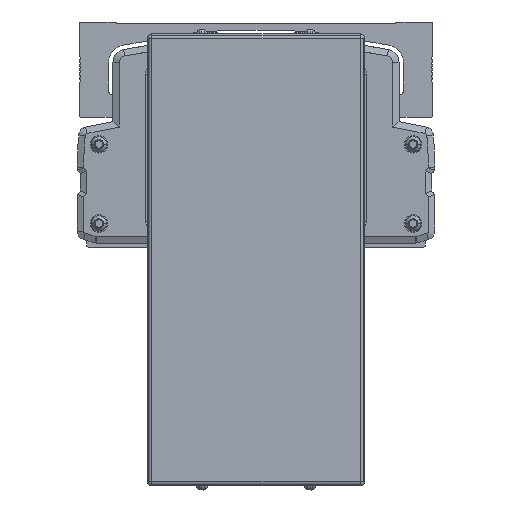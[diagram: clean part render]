
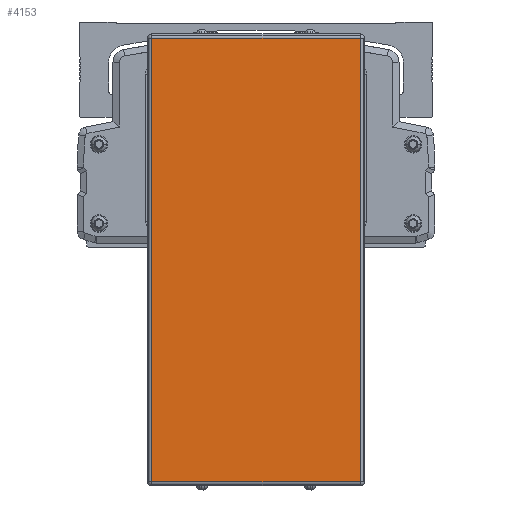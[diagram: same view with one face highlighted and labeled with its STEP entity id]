
A CAD part, front view. The second image highlights one B-rep face of the part: STEP entity #4153.
In plain terms, the highlighted planar face has unit normal (0, -1, 0).
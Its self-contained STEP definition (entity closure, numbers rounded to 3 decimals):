
#4153=ADVANCED_FACE('',(#9646),#9647,.T.);
#9646=FACE_OUTER_BOUND('',#17497,.T.);
#9647=PLANE('',#17498);
#17497=EDGE_LOOP('',(#31227,#31228,#31229,#31230));
#17498=AXIS2_PLACEMENT_3D('',#31231,#31232,#31233);
#31227=ORIENTED_EDGE('',*,*,#46391,.F.);
#31228=ORIENTED_EDGE('',*,*,#48326,.F.);
#31229=ORIENTED_EDGE('',*,*,#48327,.F.);
#31230=ORIENTED_EDGE('',*,*,#48328,.F.);
#31231=CARTESIAN_POINT('',(-600.,-122.778,-57.8));
#31232=DIRECTION('',(0.,-1.0,0.));
#31233=DIRECTION('',(0.,0.,-1.0));
#46391=EDGE_CURVE('',#56357,#56359,#56360,.T.);
#48326=EDGE_CURVE('',#54159,#56357,#59420,.T.);
#48327=EDGE_CURVE('',#59421,#54159,#59422,.T.);
#48328=EDGE_CURVE('',#56359,#59421,#59423,.T.);
#54159=VERTEX_POINT('',#67259);
#56357=VERTEX_POINT('',#70485);
#56359=VERTEX_POINT('',#70487);
#56360=LINE('',#70488,#70489);
#59420=LINE('',#74991,#74992);
#59421=VERTEX_POINT('',#74993);
#59422=LINE('',#74994,#74995);
#59423=LINE('',#74996,#74997);
#67259=CARTESIAN_POINT('',(-648.,-122.778,-160.1));
#70485=CARTESIAN_POINT('',(-648.,-122.778,44.5));
#70487=CARTESIAN_POINT('',(-552.,-122.778,44.5));
#70488=CARTESIAN_POINT('',(-600.,-122.778,44.5));
#70489=VECTOR('',#84645,10.0);
#74991=CARTESIAN_POINT('',(-648.,-122.778,-57.8));
#74992=VECTOR('',#87153,10.0);
#74993=CARTESIAN_POINT('',(-552.,-122.778,-160.1));
#74994=CARTESIAN_POINT('',(-600.,-122.778,-160.1));
#74995=VECTOR('',#87154,10.0);
#74996=CARTESIAN_POINT('',(-552.,-122.778,-57.8));
#74997=VECTOR('',#87155,10.0);
#84645=DIRECTION('',(1.0,0.,0.));
#87153=DIRECTION('',(0.,0.,1.0));
#87154=DIRECTION('',(-1.0,0.,0.));
#87155=DIRECTION('',(0.,0.,-1.0));
